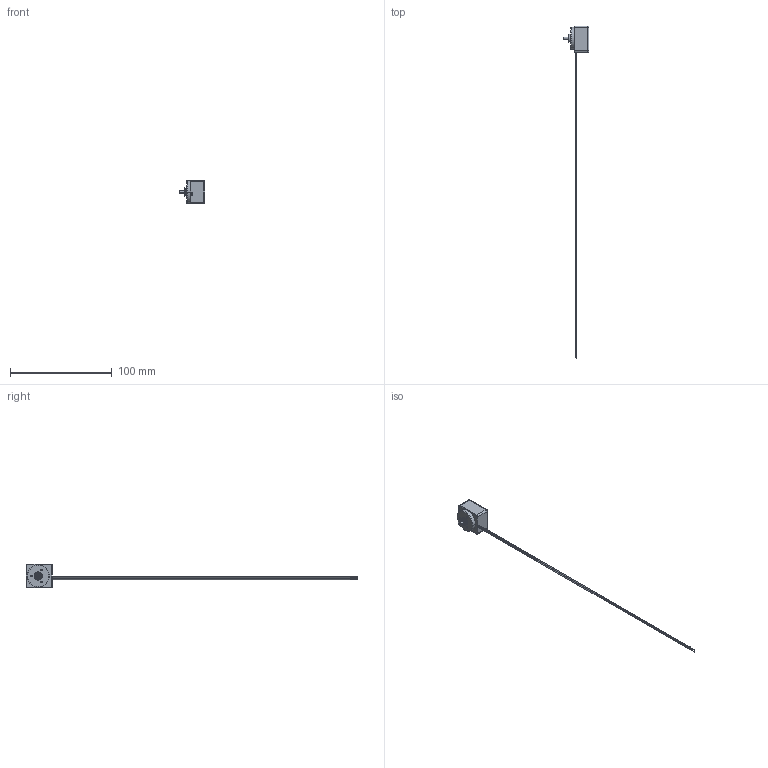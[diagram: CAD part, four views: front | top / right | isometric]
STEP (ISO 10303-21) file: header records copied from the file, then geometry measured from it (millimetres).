
FILE_DESCRIPTION((''),'2;1');
FILE_NAME('1009391','2016-10-10T',('mmagpetk'),(''),'CREO PARAMETRIC BY PTC INC, 2016050','CREO PARAMETRIC BY PTC INC, 2016050','');
FILE_SCHEMA(('CONFIG_CONTROL_DESIGN'));
Length unit declared in the file: millimetre
Products named in the file (1): 1009391
Bounding box: 25.5 x 326 x 23 mm (x, y, z)
Volume: 10511.9 mm3; surface area: 4760.3 mm2
Topology: 1 solids, 1 shells, 73 faces, 158 edges, 93 vertices
Faces by surface type: cylinder 38, plane 17, torus 8, cone 6, bspline 4
Entity records: 2108 total; most frequent: DIRECTION 384, CARTESIAN_POINT 378, ORIENTED_EDGE 304, AXIS2_PLACEMENT_3D 163, EDGE_CURVE 152, CIRCLE 94, VERTEX_POINT 93, EDGE_LOOP 85
